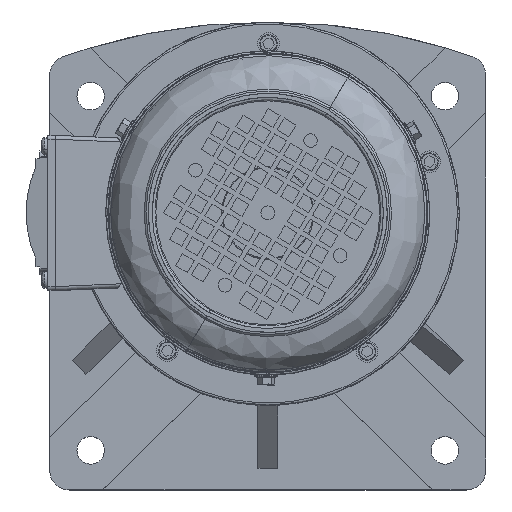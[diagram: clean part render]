
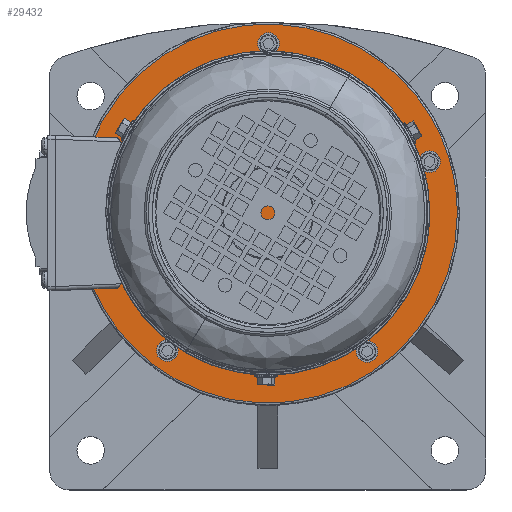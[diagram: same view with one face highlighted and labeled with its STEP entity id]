
A CAD part, top view. The second image highlights one B-rep face of the part: STEP entity #29432.
In plain terms, the highlighted planar face has unit normal (0, 0, 1).
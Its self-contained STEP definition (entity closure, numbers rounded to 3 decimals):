
#1446 = CARTESIAN_POINT ( 'NONE',  ( -96.5, 0., 106. ) ) ;
#1666 = AXIS2_PLACEMENT_3D ( 'NONE', #10495, #49752, #16166 ) ;
#1723 = EDGE_CURVE ( 'NONE', #50578, #35535, #17557, .T. ) ;
#1727 = CARTESIAN_POINT ( 'NONE',  ( -56.623, -69.776, 106. ) ) ;
#2437 = CARTESIAN_POINT ( 'NONE',  ( -76.659, 27.059, 106. ) ) ;
#2634 = CIRCLE ( 'NONE', #28450, 5.5 ) ;
#2914 =( BOUNDED_CURVE ( )  B_SPLINE_CURVE ( 3, ( #1446, #35115, #46349, #12773 ),
 .UNSPECIFIED., .F., .T. ) 
 B_SPLINE_CURVE_WITH_KNOTS ( ( 4, 4 ),
 ( 0., 1. ),
 .UNSPECIFIED. ) 
 CURVE ( )  GEOMETRIC_REPRESENTATION_ITEM ( )  RATIONAL_B_SPLINE_CURVE ( ( 1., 0.333, 0.333, 1. ) ) 
 REPRESENTATION_ITEM ( '' )  );
#6080 = EDGE_LOOP ( 'NONE', ( #30164, #50431 ) ) ;
#8104 = CARTESIAN_POINT ( 'NONE',  ( -82.159, 27.059, 106. ) ) ;
#8466 = ORIENTED_EDGE ( 'NONE', *, *, #64209, .T. ) ;
#9853 = DIRECTION ( 'NONE',  ( 0., 0., -1. ) ) ;
#10018 = EDGE_CURVE ( 'NONE', #17517, #21931, #47577, .T. ) ;
#10255 = DIRECTION ( 'NONE',  ( 0., 0., -1. ) ) ;
#10495 = CARTESIAN_POINT ( 'NONE',  ( -51.123, -69.776, 106. ) ) ;
#12150 = EDGE_LOOP ( 'NONE', ( #54664, #42534 ) ) ;
#12476 = FACE_BOUND ( 'NONE', #50526, .T. ) ;
#12773 = CARTESIAN_POINT ( 'NONE',  ( 96.5, 0., 106. ) ) ;
#13748 = DIRECTION ( 'NONE',  ( 1., 0., 0. ) ) ;
#14982 = CIRCLE ( 'NONE', #41723, 5.5 ) ;
#16166 = DIRECTION ( 'NONE',  ( 1., 0., 0. ) ) ;
#16780 = EDGE_CURVE ( 'NONE', #28772, #39753, #43948, .T. ) ;
#16843 = CARTESIAN_POINT ( 'NONE',  ( 76.873, 26.401, 106. ) ) ;
#17517 = VERTEX_POINT ( 'NONE', #2437 ) ;
#17557 =( BOUNDED_CURVE ( )  B_SPLINE_CURVE ( 3, ( #36603, #36829, #36613, #36458 ),
 .UNSPECIFIED., .F., .T. ) 
 B_SPLINE_CURVE_WITH_KNOTS ( ( 4, 4 ),
 ( 0., 1. ),
 .UNSPECIFIED. ) 
 CURVE ( )  GEOMETRIC_REPRESENTATION_ITEM ( )  RATIONAL_B_SPLINE_CURVE ( ( 1., 0.333, 0.333, 1. ) ) 
 REPRESENTATION_ITEM ( '' )  );
#18532 = CARTESIAN_POINT ( 'NONE',  ( 56.063, -70.183, 106. ) ) ;
#18562 = VERTEX_POINT ( 'NONE', #23256 ) ;
#18649 = DIRECTION ( 'NONE',  ( 1., 0., 0. ) ) ;
#18699 = VERTEX_POINT ( 'NONE', #71172 ) ;
#18712 = DIRECTION ( 'NONE',  ( 0., 0., -1. ) ) ;
#18724 = CARTESIAN_POINT ( 'NONE',  ( -51.123, -69.776, 106. ) ) ;
#21931 = VERTEX_POINT ( 'NONE', #37378 ) ;
#23256 = CARTESIAN_POINT ( 'NONE',  ( 87.873, 26.401, 106. ) ) ;
#23328 = DIRECTION ( 'NONE',  ( 0., 0., -1. ) ) ;
#23783 = CARTESIAN_POINT ( 'NONE',  ( 50.563, -70.183, 106. ) ) ;
#24132 = CIRCLE ( 'NONE', #57694, 5.5 ) ;
#24494 = EDGE_LOOP ( 'NONE', ( #72033, #8466 ) ) ;
#24725 = DIRECTION ( 'NONE',  ( 1., 0., 0. ) ) ;
#24736 = DIRECTION ( 'NONE',  ( 0., 0., 1. ) ) ;
#24765 = AXIS2_PLACEMENT_3D ( 'NONE', #23783, #62641, #29404 ) ;
#24976 = CARTESIAN_POINT ( 'NONE',  ( 0., 0., 106. ) ) ;
#25869 = PLANE ( 'NONE',  #34429 ) ;
#26946 = CIRCLE ( 'NONE', #24765, 5.5 ) ;
#27407 = FACE_BOUND ( 'NONE', #24494, .T. ) ;
#27761 = AXIS2_PLACEMENT_3D ( 'NONE', #18724, #18712, #18649 ) ;
#27805 = EDGE_CURVE ( 'NONE', #18562, #38989, #24132, .T. ) ;
#28301 = AXIS2_PLACEMENT_3D ( 'NONE', #30673, #30662, #30603 ) ;
#28402 = ORIENTED_EDGE ( 'NONE', *, *, #57817, .T. ) ;
#28450 = AXIS2_PLACEMENT_3D ( 'NONE', #43435, #9853, #49122 ) ;
#28772 = VERTEX_POINT ( 'NONE', #41648 ) ;
#29219 = EDGE_CURVE ( 'NONE', #18699, #46478, #68966, .T. ) ;
#29404 = DIRECTION ( 'NONE',  ( 1., 0., 0. ) ) ;
#29432 = ADVANCED_FACE ( 'NONE', ( #57138, #58819, #71458, #42284, #27407, #12476 ), #25869, .T. ) ;
#30164 = ORIENTED_EDGE ( 'NONE', *, *, #42993, .F. ) ;
#30603 = DIRECTION ( 'NONE',  ( 1., 0., 0. ) ) ;
#30662 = DIRECTION ( 'NONE',  ( 0., 0., -1. ) ) ;
#30673 = CARTESIAN_POINT ( 'NONE',  ( 0.346, 86.499, 106. ) ) ;
#31787 = EDGE_LOOP ( 'NONE', ( #48826, #61251 ) ) ;
#32820 = DIRECTION ( 'NONE',  ( 1., 0., 0. ) ) ;
#32832 = DIRECTION ( 'NONE',  ( 0., 0., -1. ) ) ;
#32907 = CARTESIAN_POINT ( 'NONE',  ( -82.159, 27.059, 106. ) ) ;
#34429 = AXIS2_PLACEMENT_3D ( 'NONE', #24976, #24736, #24725 ) ;
#35115 = CARTESIAN_POINT ( 'NONE',  ( -96.5, 193., 106. ) ) ;
#35535 = VERTEX_POINT ( 'NONE', #58624 ) ;
#36458 = CARTESIAN_POINT ( 'NONE',  ( -96.5, 0., 106. ) ) ;
#36603 = CARTESIAN_POINT ( 'NONE',  ( 96.5, 0., 106. ) ) ;
#36613 = CARTESIAN_POINT ( 'NONE',  ( -96.5, -193., 106. ) ) ;
#36794 = CIRCLE ( 'NONE', #70760, 5.5 ) ;
#36829 = CARTESIAN_POINT ( 'NONE',  ( 96.5, -193., 106. ) ) ;
#37378 = CARTESIAN_POINT ( 'NONE',  ( -87.659, 27.059, 106. ) ) ;
#37628 = VERTEX_POINT ( 'NONE', #58251 ) ;
#38989 = VERTEX_POINT ( 'NONE', #16843 ) ;
#39316 = CARTESIAN_POINT ( 'NONE',  ( -5.154, 86.499, 106. ) ) ;
#39593 = AXIS2_PLACEMENT_3D ( 'NONE', #56802, #23328, #62198 ) ;
#39753 = VERTEX_POINT ( 'NONE', #1727 ) ;
#41648 = CARTESIAN_POINT ( 'NONE',  ( -45.623, -69.776, 106. ) ) ;
#41723 = AXIS2_PLACEMENT_3D ( 'NONE', #43834, #10255, #49516 ) ;
#42284 = FACE_BOUND ( 'NONE', #49420, .T. ) ;
#42534 = ORIENTED_EDGE ( 'NONE', *, *, #62671, .T. ) ;
#42664 = DIRECTION ( 'NONE',  ( 1., 0., 0. ) ) ;
#42681 = DIRECTION ( 'NONE',  ( 0., 0., -1. ) ) ;
#42846 = CARTESIAN_POINT ( 'NONE',  ( 82.373, 26.401, 106. ) ) ;
#42993 = EDGE_CURVE ( 'NONE', #35535, #50578, #2914, .T. ) ;
#43435 = CARTESIAN_POINT ( 'NONE',  ( 50.563, -70.183, 106. ) ) ;
#43834 = CARTESIAN_POINT ( 'NONE',  ( 0.346, 86.499, 106. ) ) ;
#43948 = CIRCLE ( 'NONE', #27761, 5.5 ) ;
#46349 = CARTESIAN_POINT ( 'NONE',  ( 96.5, 193., 106. ) ) ;
#46478 = VERTEX_POINT ( 'NONE', #39316 ) ;
#47329 = DIRECTION ( 'NONE',  ( 0., 0., -1. ) ) ;
#47577 = CIRCLE ( 'NONE', #57368, 5.5 ) ;
#48756 = EDGE_CURVE ( 'NONE', #39753, #28772, #67423, .T. ) ;
#48826 = ORIENTED_EDGE ( 'NONE', *, *, #16780, .T. ) ;
#49122 = DIRECTION ( 'NONE',  ( 1., 0., 0. ) ) ;
#49420 = EDGE_LOOP ( 'NONE', ( #58821, #69064 ) ) ;
#49516 = DIRECTION ( 'NONE',  ( 1., 0., 0. ) ) ;
#49605 = ORIENTED_EDGE ( 'NONE', *, *, #27805, .T. ) ;
#49752 = DIRECTION ( 'NONE',  ( 0., 0., -1. ) ) ;
#50431 = ORIENTED_EDGE ( 'NONE', *, *, #1723, .F. ) ;
#50526 = EDGE_LOOP ( 'NONE', ( #49605, #28402 ) ) ;
#50578 = VERTEX_POINT ( 'NONE', #55457 ) ;
#54664 = ORIENTED_EDGE ( 'NONE', *, *, #60315, .T. ) ;
#55457 = CARTESIAN_POINT ( 'NONE',  ( 96.5, 0., 106. ) ) ;
#56802 = CARTESIAN_POINT ( 'NONE',  ( 82.373, 26.401, 106. ) ) ;
#57138 = FACE_OUTER_BOUND ( 'NONE', #6080, .T. ) ;
#57368 = AXIS2_PLACEMENT_3D ( 'NONE', #32907, #32832, #32820 ) ;
#57694 = AXIS2_PLACEMENT_3D ( 'NONE', #42846, #42681, #42664 ) ;
#57817 = EDGE_CURVE ( 'NONE', #38989, #18562, #62293, .T. ) ;
#58251 = CARTESIAN_POINT ( 'NONE',  ( 45.063, -70.183, 106. ) ) ;
#58624 = CARTESIAN_POINT ( 'NONE',  ( -96.5, 0., 106. ) ) ;
#58819 = FACE_BOUND ( 'NONE', #12150, .T. ) ;
#58821 = ORIENTED_EDGE ( 'NONE', *, *, #10018, .T. ) ;
#60004 = VERTEX_POINT ( 'NONE', #18532 ) ;
#60315 = EDGE_CURVE ( 'NONE', #60004, #37628, #2634, .T. ) ;
#61251 = ORIENTED_EDGE ( 'NONE', *, *, #48756, .T. ) ;
#62198 = DIRECTION ( 'NONE',  ( 1., 0., 0. ) ) ;
#62293 = CIRCLE ( 'NONE', #39593, 5.5 ) ;
#62641 = DIRECTION ( 'NONE',  ( 0., 0., -1. ) ) ;
#62671 = EDGE_CURVE ( 'NONE', #37628, #60004, #26946, .T. ) ;
#64209 = EDGE_CURVE ( 'NONE', #46478, #18699, #14982, .T. ) ;
#65262 = EDGE_CURVE ( 'NONE', #21931, #17517, #36794, .T. ) ;
#67423 = CIRCLE ( 'NONE', #1666, 5.5 ) ;
#68966 = CIRCLE ( 'NONE', #28301, 5.5 ) ;
#69064 = ORIENTED_EDGE ( 'NONE', *, *, #65262, .T. ) ;
#70760 = AXIS2_PLACEMENT_3D ( 'NONE', #8104, #47329, #13748 ) ;
#71172 = CARTESIAN_POINT ( 'NONE',  ( 5.846, 86.499, 106. ) ) ;
#71458 = FACE_BOUND ( 'NONE', #31787, .T. ) ;
#72033 = ORIENTED_EDGE ( 'NONE', *, *, #29219, .T. ) ;
